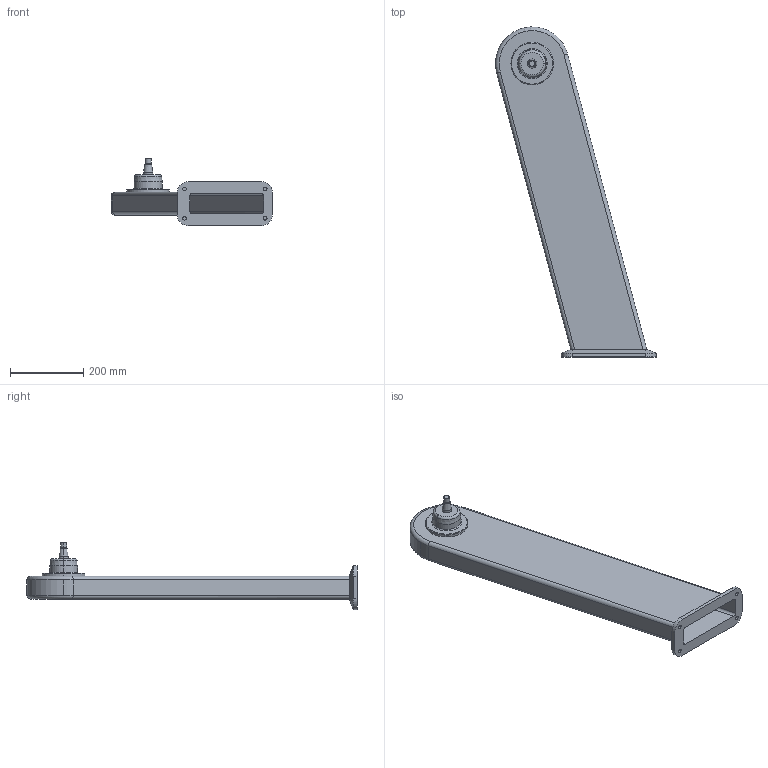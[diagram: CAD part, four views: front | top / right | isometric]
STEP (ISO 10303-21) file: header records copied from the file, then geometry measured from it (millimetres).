
FILE_DESCRIPTION (( 'STEP AP214' ), '1' );
FILE_NAME ('WP800_H800_-15.STEP', '2014-06-26T12:52:54', ( '' ), ( '' ), 'SwSTEP 2.0', 'SolidWorks 2014', '' );
FILE_SCHEMA (( 'AUTOMOTIVE_DESIGN' ));
Length unit declared in the file: millimetre
Products named in the file (1): WP800_H800_-15
Bounding box: 439 x 899.89 x 183.29 mm (x, y, z)
Volume: 1945685.5 mm3; surface area: 971810.2 mm2
Topology: 1 solids, 1 shells, 90 faces, 196 edges, 118 vertices
Faces by surface type: cylinder 38, plane 26, cone 16, torus 10
Entity records: 2490 total; most frequent: DIRECTION 466, CARTESIAN_POINT 429, ORIENTED_EDGE 392, EDGE_CURVE 196, AXIS2_PLACEMENT_3D 187, VERTEX_POINT 118, EDGE_LOOP 102, CIRCLE 96
